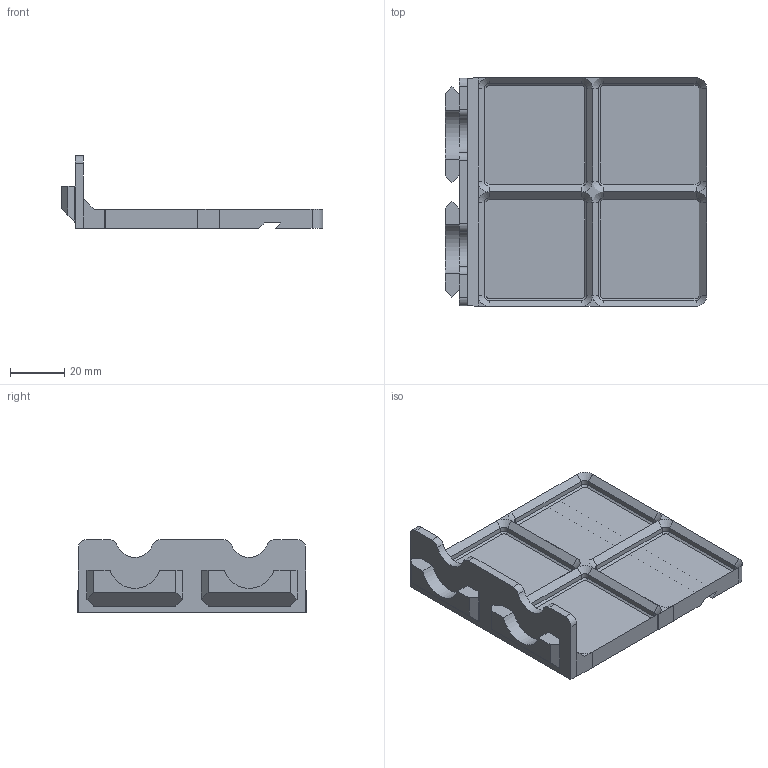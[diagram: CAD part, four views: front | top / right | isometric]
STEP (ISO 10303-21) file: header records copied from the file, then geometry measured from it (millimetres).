
FILE_DESCRIPTION(/* description */ ('','CAx-IF Rec.Pracs.---Representation and Presentation of Product Manufacturing Information (PMI)---4.0---2014-10-13'),/* implementation_level */ '2;1');
FILE_NAME(/* name */ 'Goews Double Hanger Gridfinity 2x2 Base.step',/* time_stamp */ '2024-11-28T18:02:29-05:00',/* author */ (''),/* organization */ (''),/* preprocessor_version */ 'ST-DEVELOPER v20',/* originating_system */ 'Autodesk Translation Framework v13.20.0.188',/* authorisation */ '');
FILE_SCHEMA (('AP242_MANAGED_MODEL_BASED_3D_ENGINEERING_MIM_LF { 1 0 10303 442 1 1 4 }'));
Length unit declared in the file: millimetre
Products named in the file (1): Goews Double Hanger Gridfinity 2x2 Base
Bounding box: 96.15 x 84 x 26.72 mm (x, y, z)
Volume: 32668.5 mm3; surface area: 23763.1 mm2
Topology: 1 solids, 1 shells, 177 faces, 405 edges, 232 vertices
Faces by surface type: plane 103, cylinder 42, cone 32
Entity records: 4864 total; most frequent: DIRECTION 865, CARTESIAN_POINT 815, ORIENTED_EDGE 810, EDGE_CURVE 405, LINE 301, VECTOR 301, AXIS2_PLACEMENT_3D 282, VERTEX_POINT 232
